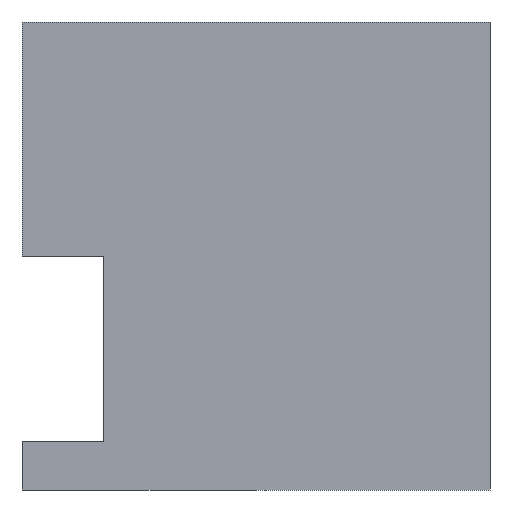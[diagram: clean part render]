
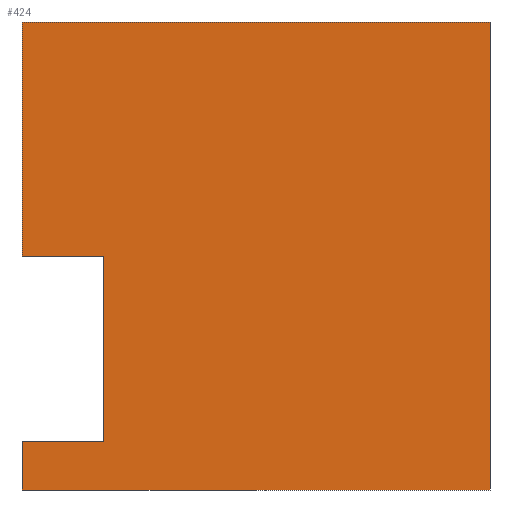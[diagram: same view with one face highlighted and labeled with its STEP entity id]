
A CAD part, left-side view. The second image highlights one B-rep face of the part: STEP entity #424.
In plain terms, the highlighted planar face has unit normal (-1, 0, 0).
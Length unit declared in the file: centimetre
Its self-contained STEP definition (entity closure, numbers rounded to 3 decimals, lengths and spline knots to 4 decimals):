
#4 = ORIENTED_EDGE ( 'NONE', *, *, #365, .T. ) ;
#5 = DIRECTION ( 'NONE',  ( 0., 0., 1. ) ) ;
#13 = ORIENTED_EDGE ( 'NONE', *, *, #191, .T. ) ;
#14 = DIRECTION ( 'NONE',  ( 0., 1., 0. ) ) ;
#15 = EDGE_CURVE ( 'NONE', #425, #52, #336, .T. ) ;
#16 = LINE ( 'NONE', #469, #74 ) ;
#28 = CARTESIAN_POINT ( 'NONE',  ( 0., 1000., 0. ) ) ;
#30 = CARTESIAN_POINT ( 'NONE',  ( 0., 826.5628, 104.2841 ) ) ;
#49 = AXIS2_PLACEMENT_3D ( 'NONE', #337, #94, #276 ) ;
#50 = ORIENTED_EDGE ( 'NONE', *, *, #203, .T. ) ;
#52 = VERTEX_POINT ( 'NONE', #231 ) ;
#68 = LINE ( 'NONE', #249, #140 ) ;
#72 = DIRECTION ( 'NONE',  ( 0., -1., 0. ) ) ;
#74 = VECTOR ( 'NONE', #194, 100. ) ;
#77 = VERTEX_POINT ( 'NONE', #529 ) ;
#90 = VERTEX_POINT ( 'NONE', #30 ) ;
#91 = ORIENTED_EDGE ( 'NONE', *, *, #15, .F. ) ;
#93 = VECTOR ( 'NONE', #396, 100. ) ;
#94 = DIRECTION ( 'NONE',  ( 1., 0., 0. ) ) ;
#109 = CARTESIAN_POINT ( 'NONE',  ( 0., 0., 1000. ) ) ;
#114 = VERTEX_POINT ( 'NONE', #109 ) ;
#139 = VECTOR ( 'NONE', #446, 100. ) ;
#140 = VECTOR ( 'NONE', #536, 100. ) ;
#149 = FACE_OUTER_BOUND ( 'NONE', #331, .T. ) ;
#156 = VECTOR ( 'NONE', #72, 100. ) ;
#188 = EDGE_CURVE ( 'NONE', #77, #90, #68, .T. ) ;
#191 = EDGE_CURVE ( 'NONE', #257, #52, #246, .T. ) ;
#194 = DIRECTION ( 'NONE',  ( 0., 0., -1. ) ) ;
#200 = CARTESIAN_POINT ( 'NONE',  ( 0., 1000., 1000. ) ) ;
#201 = LINE ( 'NONE', #300, #156 ) ;
#203 = EDGE_CURVE ( 'NONE', #77, #509, #439, .T. ) ;
#214 = VECTOR ( 'NONE', #5, 100. ) ;
#217 = VERTEX_POINT ( 'NONE', #501 ) ;
#228 = LINE ( 'NONE', #423, #214 ) ;
#230 = CARTESIAN_POINT ( 'NONE',  ( 0., 1000., 0. ) ) ;
#231 = CARTESIAN_POINT ( 'NONE',  ( 0., 1000., 500. ) ) ;
#246 = LINE ( 'NONE', #255, #139 ) ;
#249 = CARTESIAN_POINT ( 'NONE',  ( 0., 826.5628, 104.2841 ) ) ;
#255 = CARTESIAN_POINT ( 'NONE',  ( 0., 1000., 1000. ) ) ;
#257 = VERTEX_POINT ( 'NONE', #366 ) ;
#276 = DIRECTION ( 'NONE',  ( 0., 0., -1. ) ) ;
#300 = CARTESIAN_POINT ( 'NONE',  ( 0., 1000., 1000. ) ) ;
#316 = ORIENTED_EDGE ( 'NONE', *, *, #392, .F. ) ;
#325 = PLANE ( 'NONE',  #49 ) ;
#330 = DIRECTION ( 'NONE',  ( 0., -1., 0. ) ) ;
#331 = EDGE_LOOP ( 'NONE', ( #487, #535, #50, #4, #316, #558, #13, #91 ) ) ;
#336 = LINE ( 'NONE', #479, #550 ) ;
#337 = CARTESIAN_POINT ( 'NONE',  ( 0., 1000., 1000. ) ) ;
#365 = EDGE_CURVE ( 'NONE', #509, #217, #478, .T. ) ;
#366 = CARTESIAN_POINT ( 'NONE',  ( 0., 1000., 1000. ) ) ;
#379 = CARTESIAN_POINT ( 'NONE',  ( 0., 826.5628, 500. ) ) ;
#383 = VECTOR ( 'NONE', #330, 100. ) ;
#392 = EDGE_CURVE ( 'NONE', #114, #217, #16, .T. ) ;
#396 = DIRECTION ( 'NONE',  ( 0., 0., -1. ) ) ;
#423 = CARTESIAN_POINT ( 'NONE',  ( 0., 826.5628, 104.2841 ) ) ;
#424 = ADVANCED_FACE ( 'NONE', ( #149 ), #325, .F. ) ;
#425 = VERTEX_POINT ( 'NONE', #379 ) ;
#433 = EDGE_CURVE ( 'NONE', #90, #425, #228, .T. ) ;
#439 = LINE ( 'NONE', #200, #93 ) ;
#446 = DIRECTION ( 'NONE',  ( 0., 0., -1. ) ) ;
#469 = CARTESIAN_POINT ( 'NONE',  ( 0., 0., 1000. ) ) ;
#474 = EDGE_CURVE ( 'NONE', #257, #114, #201, .T. ) ;
#478 = LINE ( 'NONE', #230, #383 ) ;
#479 = CARTESIAN_POINT ( 'NONE',  ( 0., 826.5628, 500. ) ) ;
#487 = ORIENTED_EDGE ( 'NONE', *, *, #433, .F. ) ;
#501 = CARTESIAN_POINT ( 'NONE',  ( 0., 0., 0. ) ) ;
#509 = VERTEX_POINT ( 'NONE', #28 ) ;
#529 = CARTESIAN_POINT ( 'NONE',  ( 0., 1000., 104.2841 ) ) ;
#535 = ORIENTED_EDGE ( 'NONE', *, *, #188, .F. ) ;
#536 = DIRECTION ( 'NONE',  ( 0., -1., 0. ) ) ;
#550 = VECTOR ( 'NONE', #14, 100. ) ;
#558 = ORIENTED_EDGE ( 'NONE', *, *, #474, .F. ) ;
